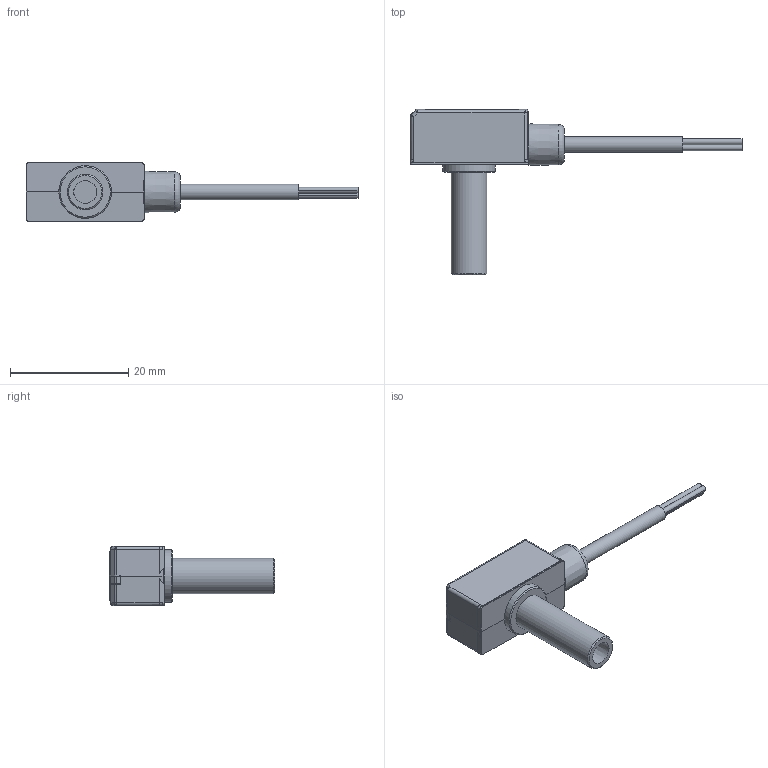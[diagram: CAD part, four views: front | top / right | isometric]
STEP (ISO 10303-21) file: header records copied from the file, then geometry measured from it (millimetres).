
FILE_DESCRIPTION(('STEP AP214'),'1');
FILE_NAME('82T6-AG.stp','2026-04-16T02:29:07',(' '),(' '),'Spatial InterOp 3D',' ',' ');
FILE_SCHEMA(('AUTOMOTIVE_DESIGN { 1 0 10303 214 1 1 1 1 }'));
Length unit declared in the file: millimetre
Products named in the file (4): MPS-※82T6-AG
Assembly tree (3 placements, depth 2):
  MPS-※82T6-AG
    MPS-※82T6-AG
    MPS-※82T6-AG
    MPS-※82T6-AG
Bounding box: 56.1 x 28 x 10 mm (x, y, z)
Volume: 1310.7 mm3; surface area: 3331.7 mm2
Topology: 2 solids, 8 shells, 349 faces, 980 edges, 642 vertices
Faces by surface type: plane 273, cylinder 46, cone 21, bspline 5, sphere 3, torus 1
Full cylindrical faces by diameter (mm): 1 x1, 2.6 x1, 2.7 x2, 4.6 x1, 4.7 x1, 5.05 x1, 6 x1, 8.89 x1
Entity records: 14352 total; most frequent: CARTESIAN_POINT 2604, ORIENTED_EDGE 1886, DIRECTION 1738, EDGE_CURVE 954, LINE 752, VECTOR 752, VERTEX_POINT 635, AXIS2_PLACEMENT_3D 493
